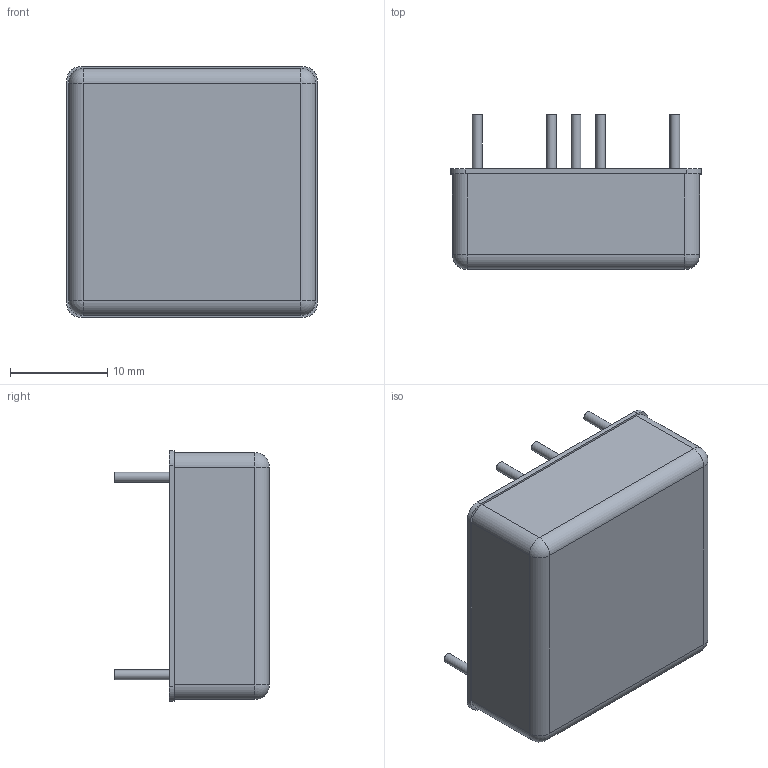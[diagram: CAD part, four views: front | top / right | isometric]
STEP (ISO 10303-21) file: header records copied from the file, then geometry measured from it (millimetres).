
FILE_DESCRIPTION (( 'STEP AP203' ), '1' );
FILE_NAME ('DKMW30W8¦¨«~¹Ï260506.STEP', '2026-05-06T06:00:43', ( '' ), ( '' ), 'SwSTEP 2.0', 'SolidWorks 2020', '' );
FILE_SCHEMA (( 'CONFIG_CONTROL_DESIGN' ));
Length unit declared in the file: millimetre
Products named in the file (1): DKMW30W8成品圖260506
Bounding box: 25.8 x 15.9 x 25.8 mm (x, y, z)
Volume: 6614.8 mm3; surface area: 2408.3 mm2
Topology: 1 solids, 1 shells, 51 faces, 100 edges, 60 vertices
Faces by surface type: cylinder 24, plane 23, sphere 4
Full cylindrical faces by diameter (mm): 1 x6, 1.05 x6
Entity records: 1299 total; most frequent: DIRECTION 236, CARTESIAN_POINT 196, ORIENTED_EDGE 168, AXIS2_PLACEMENT_3D 100, EDGE_CURVE 84, EDGE_LOOP 76, FACE_OUTER_BOUND 63, VERTEX_POINT 60
